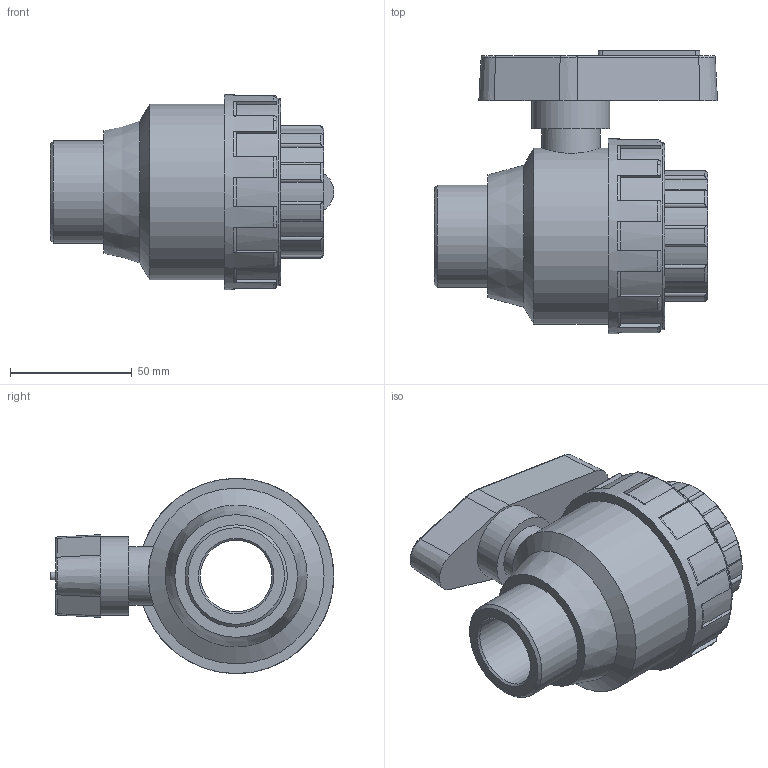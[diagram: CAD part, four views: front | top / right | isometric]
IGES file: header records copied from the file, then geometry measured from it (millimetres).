
Global section: file name: 11361013.ipt; native system: Autodesk Inventor 2015; preprocessor: unknown; author: KIM; date: 20171207.170505; units: millimetre
Bounding box: 116.14 x 116.22 x 80 mm (x, y, z)
Volume: 315757.8 mm3; surface area: 50770.2 mm2
Topology: 1 solids, 1 shells, 168 faces, 450 edges, 292 vertices
Faces by surface type: plane 65, cylinder 52, revolution 34, cone 17
Full cylindrical faces by diameter (mm): 24 x1, 32 x1, 41.91 x1, 72 x1, 76.8 x1, 80 x1
